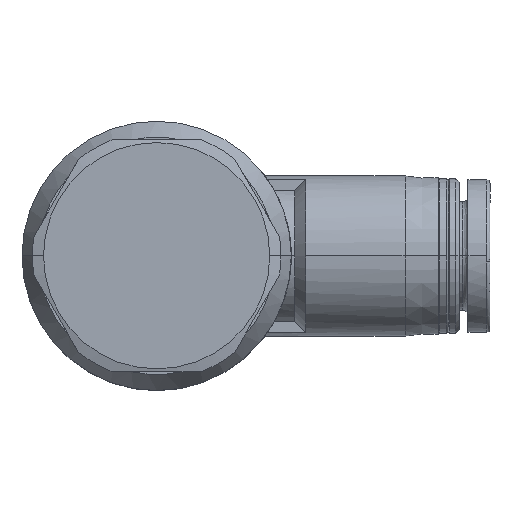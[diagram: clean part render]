
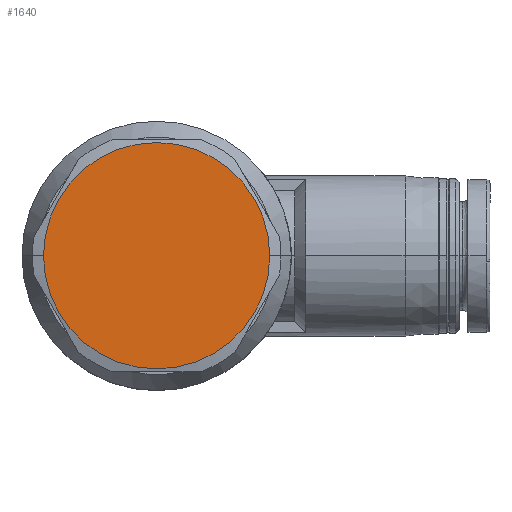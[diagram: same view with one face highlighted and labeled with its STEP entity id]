
A CAD part, top view. The second image highlights one B-rep face of the part: STEP entity #1640.
In plain terms, the highlighted planar face has unit normal (0, 0, 1).
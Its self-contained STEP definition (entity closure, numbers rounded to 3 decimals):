
#274 = EDGE_LOOP ( 'NONE', ( #2949, #1015 ) ) ;
#639 = VERTEX_POINT ( 'NONE', #1069 ) ;
#659 = CIRCLE ( 'NONE', #2915, 10.25 ) ;
#817 = CIRCLE ( 'NONE', #2760, 10.25 ) ;
#926 = DIRECTION ( 'NONE',  ( 0., 0., 1. ) ) ;
#940 = DIRECTION ( 'NONE',  ( 1., 0., 0. ) ) ;
#1015 = ORIENTED_EDGE ( 'NONE', *, *, #2424, .F. ) ;
#1069 = CARTESIAN_POINT ( 'NONE',  ( -10.25, 0., 36. ) ) ;
#1191 = PLANE ( 'NONE',  #2507 ) ;
#1640 = ADVANCED_FACE ( '35', ( #2279 ), #1191, .T. ) ;
#1824 = DIRECTION ( 'NONE',  ( -1., 0., 0. ) ) ;
#1835 = DIRECTION ( 'NONE',  ( 0., 0., -1. ) ) ;
#1839 = VERTEX_POINT ( 'NONE', #2501 ) ;
#1845 = CARTESIAN_POINT ( 'NONE',  ( 0., 0., 36. ) ) ;
#1899 = DIRECTION ( 'NONE',  ( -1., 0., 0. ) ) ;
#1927 = DIRECTION ( 'NONE',  ( 0., 0., -1. ) ) ;
#1952 = CARTESIAN_POINT ( 'NONE',  ( 0., 0., 36. ) ) ;
#2211 = CARTESIAN_POINT ( 'NONE',  ( 10.75, 10.75, 36. ) ) ;
#2279 = FACE_OUTER_BOUND ( 'NONE', #274, .T. ) ;
#2424 = EDGE_CURVE ( 'NONE', #1839, #639, #817, .T. ) ;
#2438 = EDGE_CURVE ( 'NONE', #639, #1839, #659, .T. ) ;
#2501 = CARTESIAN_POINT ( 'NONE',  ( 10.25, 0., 36. ) ) ;
#2507 = AXIS2_PLACEMENT_3D ( 'NONE', #2211, #926, #940 ) ;
#2760 = AXIS2_PLACEMENT_3D ( 'NONE', #1952, #1927, #1899 ) ;
#2915 = AXIS2_PLACEMENT_3D ( 'NONE', #1845, #1835, #1824 ) ;
#2949 = ORIENTED_EDGE ( 'NONE', *, *, #2438, .F. ) ;
